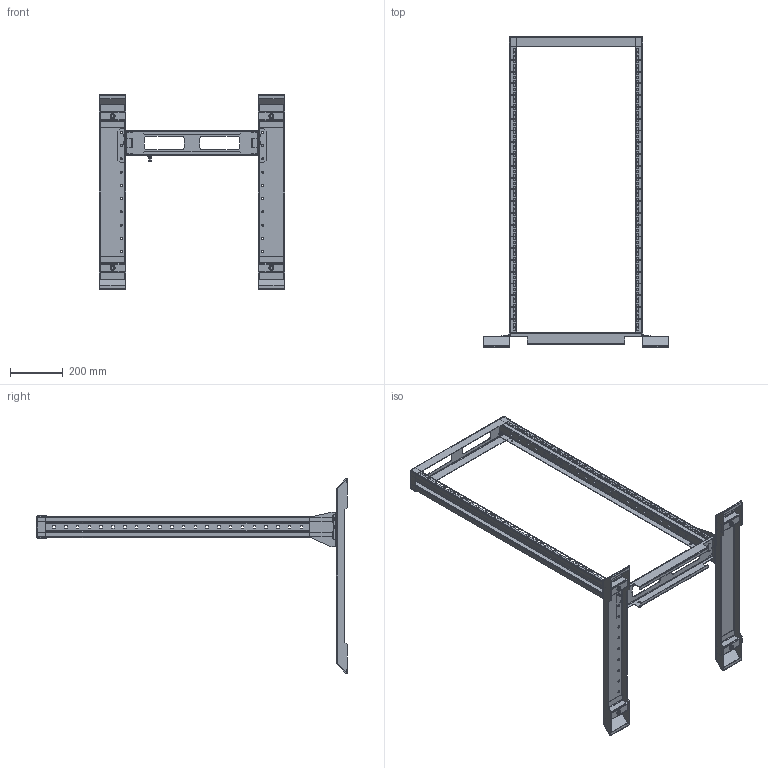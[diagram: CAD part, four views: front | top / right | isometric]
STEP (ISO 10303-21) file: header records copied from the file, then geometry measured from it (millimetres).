
FILE_DESCRIPTION (( 'STEP AP203' ), '1' );
FILE_NAME ('IFO 24.57.74 Ñòîéêà òåëåêîììóíèêàöèîííàÿ.STEP', '2013-01-15T12:19:25', ( 'System' ), ( '' ), 'SwSTEP 2.0', 'SolidWorks 2012', '' );
FILE_SCHEMA (( 'CONFIG_CONTROL_DESIGN' ));
Length unit declared in the file: millimetre
Products named in the file (3): IFO 24.57.74 Ñòîéêà òåëåêîììóíèêàöèîííàÿ; IFO 74 ﾎ魵瑙韃; IFO 24.57 01.000捘 冓憵
Assembly tree (3 placements, depth 2):
  IFO 24.57.74 Ñòîéêà òåëåêîììóíèêàöèîííàÿ
    IFO 24.57 01.000捘 冓憵
    IFO 74 ﾎ魵瑙韃  x2
Bounding box: 700 x 1173.73 x 734.94 mm (x, y, z)
Volume: 1643773.8 mm3; surface area: 1638193.3 mm2
Topology: 4 solids, 4 shells, 3074 faces, 8940 edges, 5856 vertices
Faces by surface type: plane 1808, cylinder 1130, bspline 72, torus 36, cone 28
Entity records: 87601 total; most frequent: CARTESIAN_POINT 16943, ORIENTED_EDGE 14882, DIRECTION 14740, EDGE_CURVE 7441, AXIS2_PLACEMENT_3D 4960, VERTEX_POINT 4871, VECTOR 4820, LINE 4820
